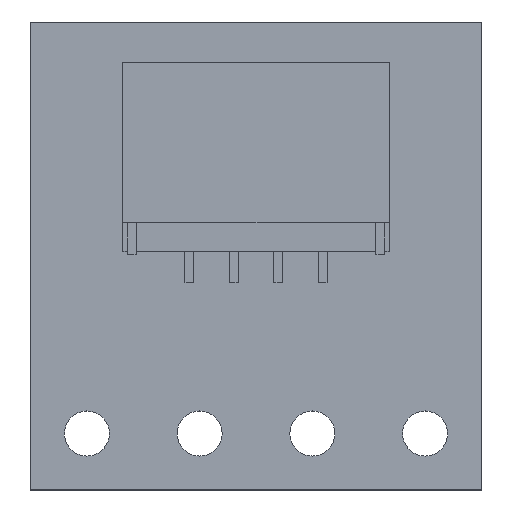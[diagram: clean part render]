
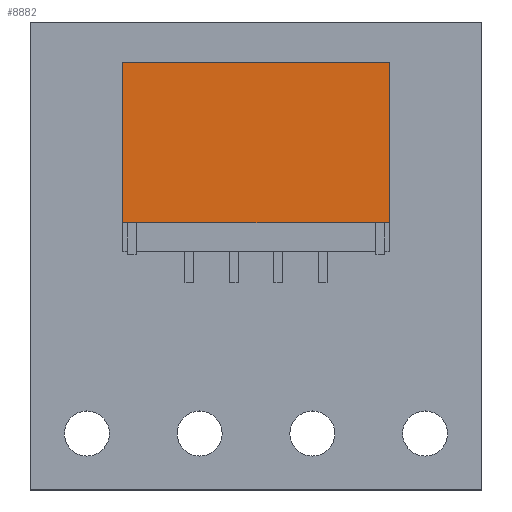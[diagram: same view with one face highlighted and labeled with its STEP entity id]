
A CAD part, top view. The second image highlights one B-rep face of the part: STEP entity #8882.
In plain terms, the highlighted planar face has unit normal (0, 0, 1).
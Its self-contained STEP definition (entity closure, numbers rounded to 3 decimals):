
#303 = CARTESIAN_POINT ( 'NONE',  ( 8.08, 9.559, 3.986 ) ) ;
#562 = VERTEX_POINT ( 'NONE', #20508 ) ;
#1028 = VERTEX_POINT ( 'NONE', #17119 ) ;
#1280 = VECTOR ( 'NONE', #21669, 1000. ) ;
#1285 = DIRECTION ( 'NONE',  ( 0., 0., -1. ) ) ;
#1671 = EDGE_CURVE ( 'NONE', #22197, #562, #27575, .T. ) ;
#2465 = PLANE ( 'NONE',  #12684 ) ;
#3670 = EDGE_CURVE ( 'NONE', #22197, #1028, #20717, .T. ) ;
#4253 = ORIENTED_EDGE ( 'NONE', *, *, #25807, .T. ) ;
#4832 = VECTOR ( 'NONE', #18929, 1000. ) ;
#5667 = LINE ( 'NONE', #12313, #23777 ) ;
#7641 = ORIENTED_EDGE ( 'NONE', *, *, #13565, .T. ) ;
#7782 = EDGE_LOOP ( 'NONE', ( #28141, #24137, #7641, #4253 ) ) ;
#8882 = ADVANCED_FACE ( 'NONE', ( #14165 ), #2465, .F. ) ;
#9171 = CARTESIAN_POINT ( 'NONE',  ( 8.08, 9.559, 3.986 ) ) ;
#9550 = VERTEX_POINT ( 'NONE', #19705 ) ;
#9838 = DIRECTION ( 'NONE',  ( 1., 0., 0. ) ) ;
#10671 = DIRECTION ( 'NONE',  ( 0., -1., 0. ) ) ;
#12313 = CARTESIAN_POINT ( 'NONE',  ( 2.08, 9.559, 3.986 ) ) ;
#12684 = AXIS2_PLACEMENT_3D ( 'NONE', #16689, #1285, #9838 ) ;
#13565 = EDGE_CURVE ( 'NONE', #562, #9550, #20566, .T. ) ;
#14165 = FACE_OUTER_BOUND ( 'NONE', #7782, .T. ) ;
#16689 = CARTESIAN_POINT ( 'NONE',  ( 5.08, 7.434, 3.986 ) ) ;
#17119 = CARTESIAN_POINT ( 'NONE',  ( 2.08, 5.959, 3.986 ) ) ;
#18232 = CARTESIAN_POINT ( 'NONE',  ( 8.08, 5.959, 3.986 ) ) ;
#18794 = CARTESIAN_POINT ( 'NONE',  ( 8.08, 5.959, 3.986 ) ) ;
#18929 = DIRECTION ( 'NONE',  ( -1., 0., 0. ) ) ;
#19705 = CARTESIAN_POINT ( 'NONE',  ( 2.08, 9.559, 3.986 ) ) ;
#20494 = VECTOR ( 'NONE', #27293, 1000. ) ;
#20508 = CARTESIAN_POINT ( 'NONE',  ( 8.08, 9.559, 3.986 ) ) ;
#20566 = LINE ( 'NONE', #303, #1280 ) ;
#20717 = LINE ( 'NONE', #18794, #4832 ) ;
#21669 = DIRECTION ( 'NONE',  ( -1., 0., 0. ) ) ;
#22197 = VERTEX_POINT ( 'NONE', #18232 ) ;
#23777 = VECTOR ( 'NONE', #10671, 1000. ) ;
#24137 = ORIENTED_EDGE ( 'NONE', *, *, #1671, .T. ) ;
#25807 = EDGE_CURVE ( 'NONE', #9550, #1028, #5667, .T. ) ;
#27293 = DIRECTION ( 'NONE',  ( 0., 1., 0. ) ) ;
#27575 = LINE ( 'NONE', #9171, #20494 ) ;
#28141 = ORIENTED_EDGE ( 'NONE', *, *, #3670, .F. ) ;
